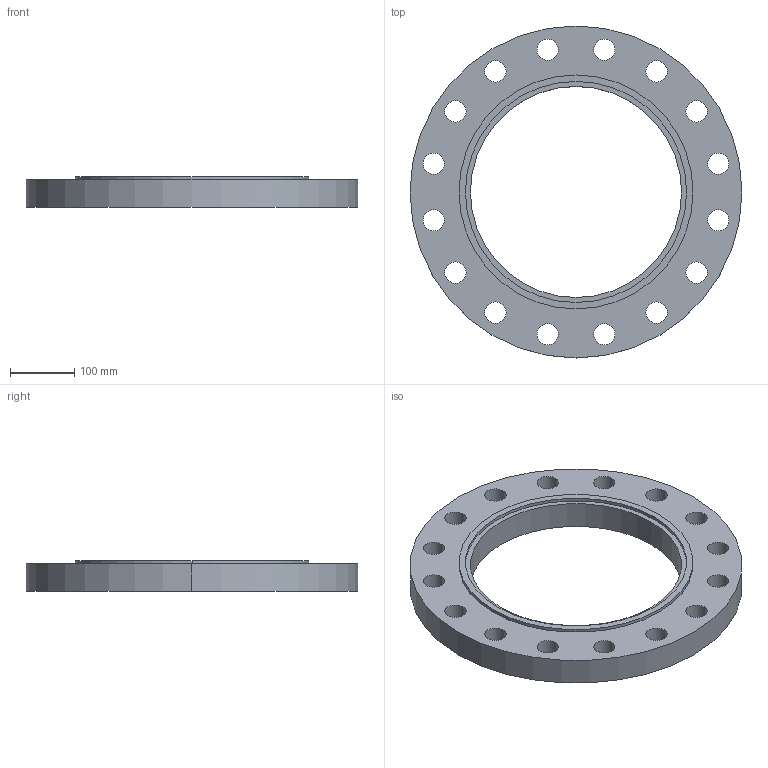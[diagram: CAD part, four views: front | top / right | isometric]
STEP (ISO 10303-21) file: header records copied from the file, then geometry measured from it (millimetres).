
FILE_DESCRIPTION (( 'STEP AP214' ), '1' );
FILE_NAME ('PN40 DN300 Type 01 - Type C Face.STEP', '2019-01-05T20:31:00', ( '' ), ( '' ), 'SwSTEP 2.0', 'SolidWorks 2019', '' );
FILE_SCHEMA (( 'AUTOMOTIVE_DESIGN' ));
Length unit declared in the file: millimetre
Products named in the file (1): PN40 DN300 Type 01 - Type C Face
Bounding box: 515 x 515 x 48 mm (x, y, z)
Volume: 4801943.4 mm3; surface area: 416995.8 mm2
Topology: 1 solids, 1 shells, 44 faces, 120 edges, 80 vertices
Faces by surface type: cylinder 40, plane 4
Entity records: 1546 total; most frequent: DIRECTION 290, CARTESIAN_POINT 245, ORIENTED_EDGE 240, AXIS2_PLACEMENT_3D 125, EDGE_CURVE 120, VERTEX_POINT 80, CIRCLE 80, EDGE_LOOP 80
